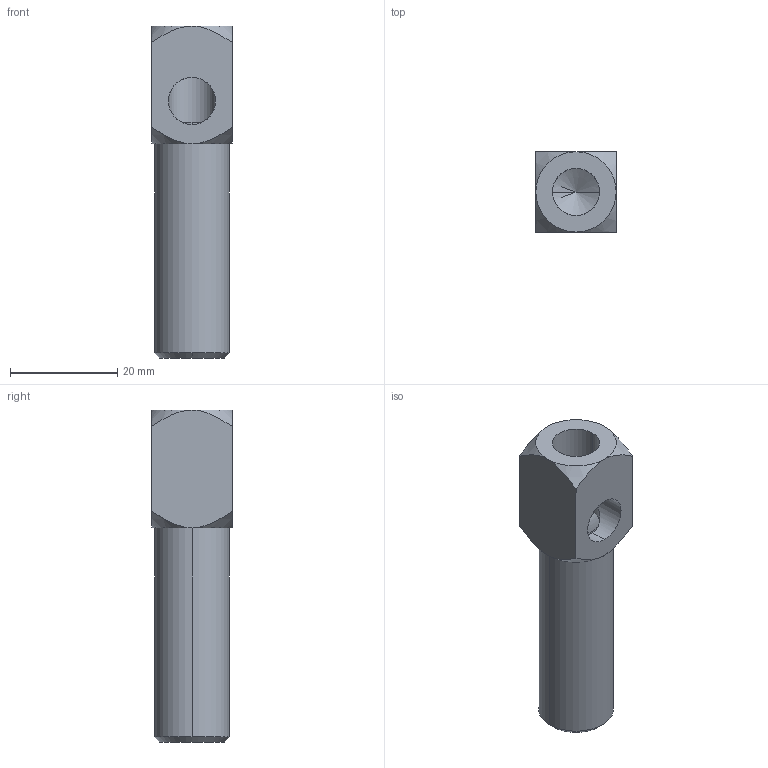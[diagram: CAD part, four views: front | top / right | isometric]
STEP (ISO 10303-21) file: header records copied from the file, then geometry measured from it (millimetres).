
FILE_DESCRIPTION (( 'STEP AP214' ), '1' );
FILE_NAME ('SVE-G181440.STEP', '2023-01-18T06:02:04', ( 'Windows User' ), ( 'P R C' ), 'SwSTEP 2.0', 'SolidWorks 2019', '' );
FILE_SCHEMA (( 'AUTOMOTIVE_DESIGN' ));
Length unit declared in the file: millimetre
Products named in the file (1): SVE-G181440
Bounding box: 15 x 15 x 62 mm (x, y, z)
Volume: 6695.2 mm3; surface area: 5037.6 mm2
Topology: 1 solids, 1 shells, 34 faces, 80 edges, 45 vertices
Faces by surface type: cone 16, cylinder 12, plane 6
Entity records: 1117 total; most frequent: CARTESIAN_POINT 350, DIRECTION 155, ORIENTED_EDGE 152, EDGE_CURVE 76, AXIS2_PLACEMENT_3D 66, VERTEX_POINT 45, EDGE_LOOP 37, ADVANCED_FACE 34
